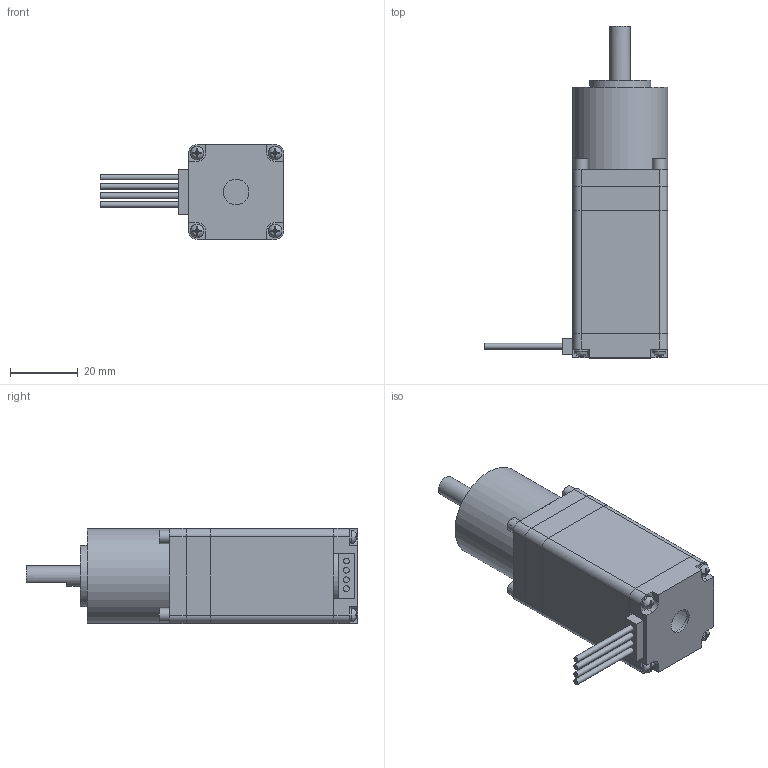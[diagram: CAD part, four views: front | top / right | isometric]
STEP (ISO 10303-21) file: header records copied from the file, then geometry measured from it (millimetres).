
FILE_DESCRIPTION(/* description */ (''),/* implementation_level */ '2;1');
FILE_NAME(/* name */ '28HS51-0674PG5.18.step',/* time_stamp */ '2020-08-21T11:15:01+08:00',/* author */ (''),/* organization */ (''),/* preprocessor_version */ 'ST-DEVELOPER v15',/* originating_system */ 'SIEMENS PLM Software NX 10.0',/* authorisation */ '');
FILE_SCHEMA (('AUTOMOTIVE_DESIGN { 1 0 10303 214 3 1 1 1 }'));
Length unit declared in the file: millimetre
Products named in the file (5): 001B-01带护套线的; 减速箱致贝 5.18; 001F; 36.4h 定子; 28HS51-0674PG5.18
Assembly tree (4 placements, depth 2):
  28HS51-0674PG5.18
    36.4h 定子
    001F
    减速箱致贝 5.18
    001B-01带护套线的
Bounding box: 54 x 97.8 x 28 mm (x, y, z)
Volume: 54332.8 mm3; surface area: 18758.1 mm2
Topology: 9 solids, 9 shells, 268 faces, 654 edges, 435 vertices
Faces by surface type: plane 195, cylinder 61, cone 8, bspline 4
Full cylindrical faces by diameter (mm): 1.7 x4, 2.5 x12, 2.8 x4, 4 x8, 6 x1, 7.5 x2, 10 x2, 13 x2, 16.91 x2, 18 x1, 22 x1, 24 x1, 28 x1
Entity records: 7865 total; most frequent: CARTESIAN_POINT 1691, DIRECTION 1214, ORIENTED_EDGE 1156, EDGE_CURVE 578, VERTEX_POINT 416, AXIS2_PLACEMENT_3D 415, LINE 384, VECTOR 384
